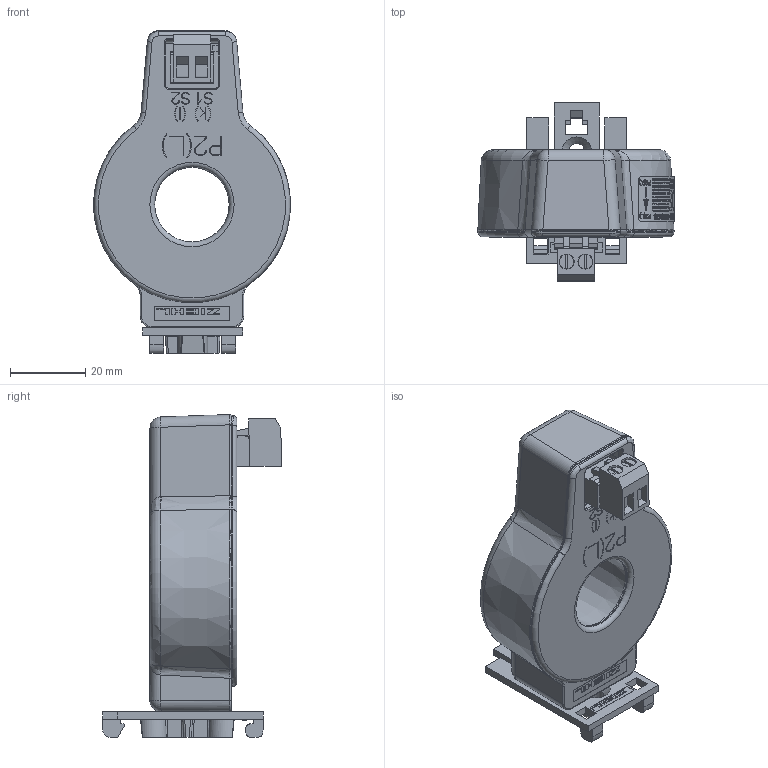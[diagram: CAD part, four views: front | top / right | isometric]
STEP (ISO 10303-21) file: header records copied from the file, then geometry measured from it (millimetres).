
FILE_DESCRIPTION (( 'STEP AP214' ), '1' );
FILE_NAME ('20 mm.STEP', '2013-12-10T10:28:22', ( '' ), ( '' ), 'SwSTEP 2.0', 'SolidWorks 2013', '' );
FILE_SCHEMA (( 'AUTOMOTIVE_DESIGN' ));
Length unit declared in the file: millimetre
Products named in the file (29): SOLID_3; STWA3D_Gegenstecker; SOLID_2; Typenschild_12580-1200-02_3D; PQ1; Leiterplatte; Board; S2; ASSEMBLY; V1; SOLID; ASSEMBLY_5; 12580-1902-02 Deckel Ø20mm; SOLID_7; 12580-1901-02 Unterteil Ø20mm; X1; 12580-1900-01 Tragschienenhalter; ASSEMBLY_4; 31020102; 20 mm; S1; ASSEMBLY_3; SOLID_9; SOLID_8; PR1; ASSEMBLY_2; SOLID_6; SOLID_5; SOLID_4
Assembly tree (29 placements, depth 5):
  20 mm
    12580-1900-01 Tragschienenhalter
    12580-1901-02 Unterteil Ø20mm
    12580-1902-02 Deckel Ø20mm
    Leiterplatte
      PQ1
        ASSEMBLY
          SOLID
        Board
      PR1
        ASSEMBLY_2
          SOLID_2
          SOLID_3
          SOLID_4
          SOLID_5
          SOLID_6
      S1
        ASSEMBLY_3
          SOLID_8
          SOLID_9
      X1
        ASSEMBLY_4
          31020102
      V1
        ASSEMBLY_5
          SOLID_7
      S2
        ASSEMBLY_3
          SOLID_8
          SOLID_9
    Typenschild_12580-1200-02_3D
    STWA3D_Gegenstecker
Bounding box: 52.36 x 47.63 x 85.94 mm (x, y, z)
Volume: 10770.3 mm3; surface area: 31560 mm2
Topology: 296 solids, 301 shells, 3590 faces, 8828 edges, 5792 vertices
Faces by surface type: plane 1402, bspline 918, cylinder 917, torus 159, sphere 147, cone 47
Full cylindrical faces by diameter (mm): 0.7 x2, 1 x4, 1.3 x2, 1.309 x1, 1.454 x3, 1.5 x2, 2.2 x2, 3.807 x2, 4 x6, 4.42 x2, 6 x1, 21.7 x1, 22 x1, 24 x1
Entity records: 196944 total; most frequent: CARTESIAN_POINT 116345, ORIENTED_EDGE 16991, DIRECTION 10549, EDGE_CURVE 8496, VERTEX_POINT 5671, EDGE_LOOP 3850, FACE_OUTER_BOUND 3626, AXIS2_PLACEMENT_3D 3624
